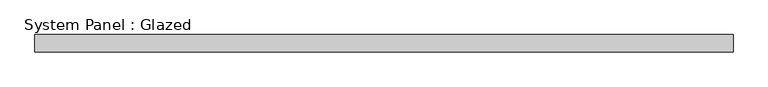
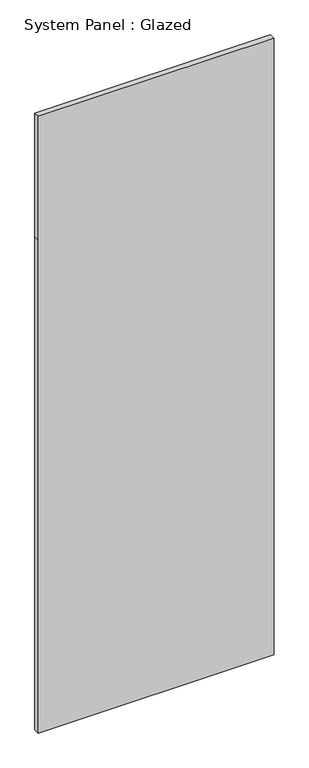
"""IFC4 building model written with IfcOpenShell, lengths in millimetres: plate geometry, System Panel : Glazed."""

from ifc_helpers import new_model, si_unit, frame, origin, place, context, project, spatial, polyline, outline, extrude, source, transform, mapped, element, save


def system_panel_glazed_761ff620(model_context):
    return source(origin(), model_context, "Body", "SweptSolid", [
        extrude(outline(polyline([(0.0, -513.5714287), (0.0, 513.5714287), (2270.0, 513.5714287), (2840.0, 513.5714287), (2840.0, -513.5714287), (2270.0, -513.5714287), (0.0, -513.5714287)])), frame((0.0, 19.05, 0.0), z_axis=(0.0, 1.0, 0.0), x_axis=(0.0, 0.0, 1.0)), (0.0, 0.0, 1.0), 25.4),
    ])


if __name__ == "__main__":
    model = new_model("IFC4")
    model_context = context("Model", 3, world=origin())
    ifc_project = project(units=[si_unit("LENGTHUNIT", "METRE", prefix="MILLI")], contexts=[model_context])
    site = spatial("IfcSite", under=ifc_project)
    building = spatial("IfcBuilding", under=site)
    placement = place(None, origin())
    system_panel_glazed_shape = system_panel_glazed_761ff620(model_context)
    element("IfcPlate", 1, ObjectType="System Panel : Glazed", at=placement, inside=building, context=model_context, shape_type="MappedRepresentation", body=[
        mapped(system_panel_glazed_shape, transform((0.0, 0.0, 0.0), x_axis=(1.0, 0.0, 0.0), y_axis=(0.0, 1.0, 0.0), z_axis=(0.0, 0.0, 1.0))),
    ])
    save(model, "model.ifc")
